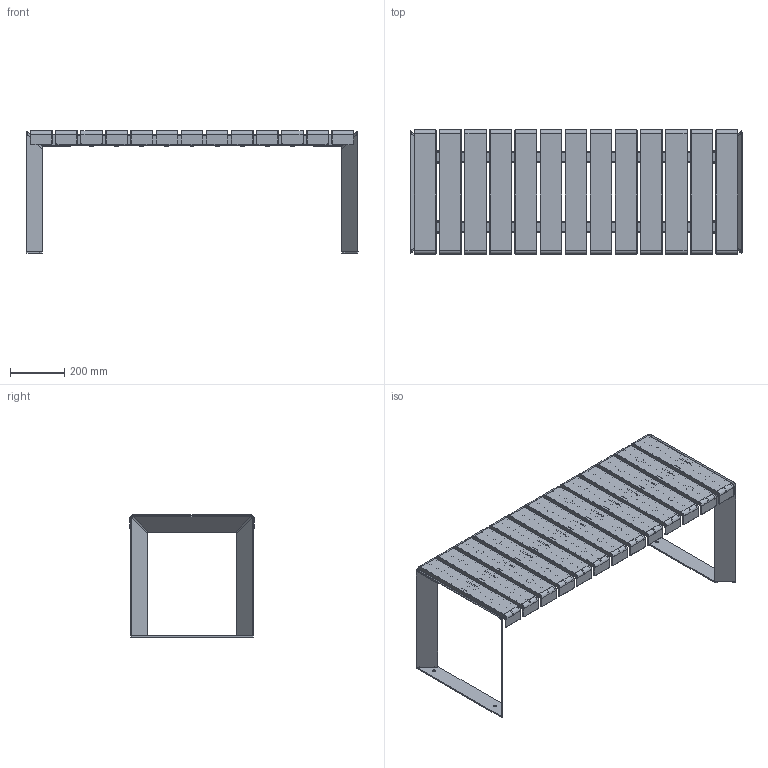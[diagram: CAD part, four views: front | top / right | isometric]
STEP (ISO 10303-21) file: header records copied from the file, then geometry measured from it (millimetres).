
FILE_DESCRIPTION(('STEP AP203'),'1');
FILE_NAME('UT80PL1300AXX + FIANCHI.stp','2025-11-11T12:57:23',(' '),(' '),'Spatial InterOp 3D',' ',' ');
FILE_SCHEMA(('CONFIG_CONTROL_DESIGN'));
Length unit declared in the file: millimetre
Products named in the file (1): UT80PL1300AXX + FIANCHI
Bounding box: 1229.16 x 460 x 454 mm (x, y, z)
Surface area: 2503279.6 mm2 (no closed solid volume)
Topology: 0 solids, 233 shells, 2947 faces, 12236 edges, 9348 vertices
Faces by surface type: plane 1202, cylinder 978, torus 498, bspline 208, cone 40, extrusion 21
Full cylindrical faces by diameter (mm): 6.8 x8, 10 x4, 13 x8, 17.8 x30
Entity records: 158320 total; most frequent: CARTESIAN_POINT 62768, DIRECTION 18611, ORIENTED_EDGE 17580, EDGE_CURVE 12064, VERTEX_POINT 9332, VECTOR 7365, LINE 7344, AXIS2_PLACEMENT_3D 5623
